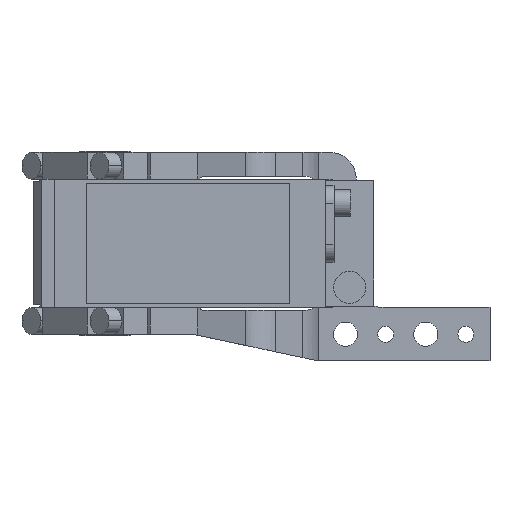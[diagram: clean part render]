
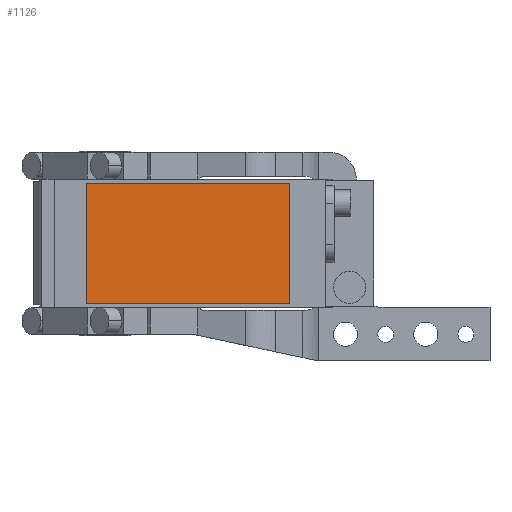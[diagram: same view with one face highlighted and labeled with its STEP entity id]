
A CAD part, front view. The second image highlights one B-rep face of the part: STEP entity #1126.
In plain terms, the highlighted planar face has unit normal (0, -1, 0).
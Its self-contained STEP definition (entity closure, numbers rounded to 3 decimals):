
#49 = CARTESIAN_POINT ( 'NONE',  ( 69., -280.5, 22.5 ) ) ;
#448 = LINE ( 'NONE', #4835, #13680 ) ;
#544 = EDGE_LOOP ( 'NONE', ( #1595, #12816, #5957, #10519 ) ) ;
#1126 = ADVANCED_FACE ( 'NONE', ( #13913 ), #8399, .T. ) ;
#1595 = ORIENTED_EDGE ( 'NONE', *, *, #13002, .T. ) ;
#2056 = DIRECTION ( 'NONE',  ( 0., 0., -1. ) ) ;
#3403 = VECTOR ( 'NONE', #12819, 1000. ) ;
#3407 = VECTOR ( 'NONE', #8582, 1000. ) ;
#4176 = LINE ( 'NONE', #6423, #3403 ) ;
#4378 = CARTESIAN_POINT ( 'NONE',  ( -7., -280.5, 22.5 ) ) ;
#4835 = CARTESIAN_POINT ( 'NONE',  ( -7., -280.5, 22.5 ) ) ;
#5180 = EDGE_CURVE ( 'NONE', #7671, #11829, #13892, .T. ) ;
#5562 = EDGE_CURVE ( 'NONE', #11829, #9772, #4176, .T. ) ;
#5957 = ORIENTED_EDGE ( 'NONE', *, *, #5562, .T. ) ;
#5963 = DIRECTION ( 'NONE',  ( -1., 0., 0. ) ) ;
#6423 = CARTESIAN_POINT ( 'NONE',  ( 69., -280.5, 22.5 ) ) ;
#6837 = CARTESIAN_POINT ( 'NONE',  ( -7., -280.5, -22.5 ) ) ;
#7325 = CARTESIAN_POINT ( 'NONE',  ( 0., -280.5, 0. ) ) ;
#7671 = VERTEX_POINT ( 'NONE', #6837 ) ;
#8355 = VERTEX_POINT ( 'NONE', #4378 ) ;
#8399 = PLANE ( 'NONE',  #10841 ) ;
#8563 = LINE ( 'NONE', #11827, #13960 ) ;
#8582 = DIRECTION ( 'NONE',  ( 1., 0., 0. ) ) ;
#9354 = EDGE_CURVE ( 'NONE', #9772, #8355, #448, .T. ) ;
#9772 = VERTEX_POINT ( 'NONE', #49 ) ;
#10519 = ORIENTED_EDGE ( 'NONE', *, *, #9354, .T. ) ;
#10587 = DIRECTION ( 'NONE',  ( 0., -1., 0. ) ) ;
#10634 = CARTESIAN_POINT ( 'NONE',  ( -7., -280.5, -22.5 ) ) ;
#10841 = AXIS2_PLACEMENT_3D ( 'NONE', #7325, #10587, #11731 ) ;
#11257 = CARTESIAN_POINT ( 'NONE',  ( 69., -280.5, -22.5 ) ) ;
#11731 = DIRECTION ( 'NONE',  ( 0., 0., -1. ) ) ;
#11827 = CARTESIAN_POINT ( 'NONE',  ( -7., -280.5, 22.5 ) ) ;
#11829 = VERTEX_POINT ( 'NONE', #11257 ) ;
#12816 = ORIENTED_EDGE ( 'NONE', *, *, #5180, .T. ) ;
#12819 = DIRECTION ( 'NONE',  ( 0., 0., 1. ) ) ;
#13002 = EDGE_CURVE ( 'NONE', #8355, #7671, #8563, .T. ) ;
#13680 = VECTOR ( 'NONE', #5963, 1000. ) ;
#13892 = LINE ( 'NONE', #10634, #3407 ) ;
#13913 = FACE_OUTER_BOUND ( 'NONE', #544, .T. ) ;
#13960 = VECTOR ( 'NONE', #2056, 1000. ) ;
